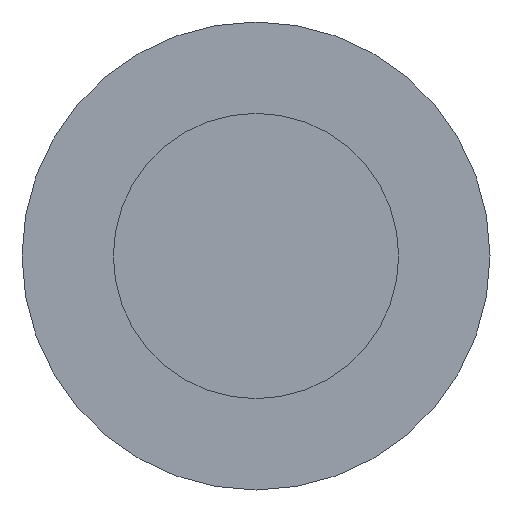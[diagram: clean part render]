
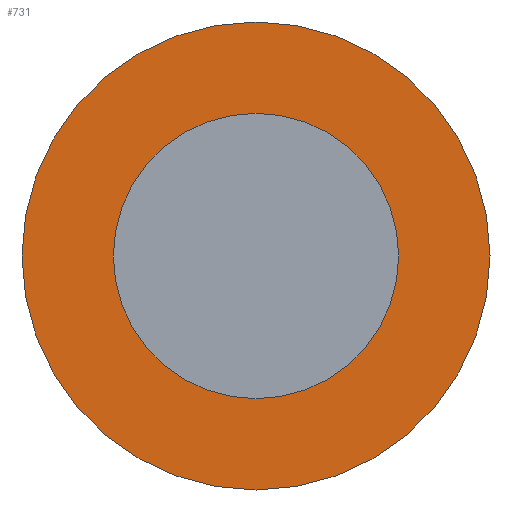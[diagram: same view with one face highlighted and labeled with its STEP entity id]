
A CAD part, front view. The second image highlights one B-rep face of the part: STEP entity #731.
In plain terms, the highlighted planar face has unit normal (0, -1, 0).
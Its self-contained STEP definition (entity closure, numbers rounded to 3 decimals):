
#88 = CARTESIAN_POINT ( 'NONE',  ( 0., 0., 0. ) ) ;
#94 = FACE_OUTER_BOUND ( 'NONE', #1358, .T. ) ;
#138 = AXIS2_PLACEMENT_3D ( 'NONE', #1010, #314, #1130 ) ;
#183 = CIRCLE ( 'NONE', #1334, 2.5 ) ;
#206 = DIRECTION ( 'NONE',  ( 0., 0., 1. ) ) ;
#266 = DIRECTION ( 'NONE',  ( 0., -1., 0. ) ) ;
#268 = AXIS2_PLACEMENT_3D ( 'NONE', #88, #891, #206 ) ;
#297 = VERTEX_POINT ( 'NONE', #1113 ) ;
#314 = DIRECTION ( 'NONE',  ( 0., 1., 0. ) ) ;
#375 = PLANE ( 'NONE',  #780 ) ;
#395 = ORIENTED_EDGE ( 'NONE', *, *, #876, .F. ) ;
#411 = EDGE_CURVE ( 'NONE', #1179, #1137, #758, .T. ) ;
#490 = DIRECTION ( 'NONE',  ( 0., -1., 0. ) ) ;
#540 = DIRECTION ( 'NONE',  ( 0., -1., 0. ) ) ;
#667 = ORIENTED_EDGE ( 'NONE', *, *, #1306, .F. ) ;
#672 = FACE_BOUND ( 'NONE', #945, .T. ) ;
#688 = CIRCLE ( 'NONE', #718, 2.5 ) ;
#718 = AXIS2_PLACEMENT_3D ( 'NONE', #957, #266, #1083 ) ;
#731 = ADVANCED_FACE ( 'NONE', ( #94, #672 ), #375, .T. ) ;
#758 = CIRCLE ( 'NONE', #268, 4.1 ) ;
#780 = AXIS2_PLACEMENT_3D ( 'NONE', #949, #490, #1309 ) ;
#876 = EDGE_CURVE ( 'NONE', #1412, #297, #183, .T. ) ;
#891 = DIRECTION ( 'NONE',  ( 0., 1., 0. ) ) ;
#904 = EDGE_CURVE ( 'NONE', #1137, #1179, #1115, .T. ) ;
#945 = EDGE_LOOP ( 'NONE', ( #667, #395 ) ) ;
#949 = CARTESIAN_POINT ( 'NONE',  ( 0., 0., 0. ) ) ;
#957 = CARTESIAN_POINT ( 'NONE',  ( 0., 0., 0. ) ) ;
#1010 = CARTESIAN_POINT ( 'NONE',  ( 0., 0., 0. ) ) ;
#1016 = ORIENTED_EDGE ( 'NONE', *, *, #411, .F. ) ;
#1083 = DIRECTION ( 'NONE',  ( 0., 0., -1. ) ) ;
#1099 = CARTESIAN_POINT ( 'NONE',  ( 0., 0., -2.5 ) ) ;
#1113 = CARTESIAN_POINT ( 'NONE',  ( 0., 0., 2.5 ) ) ;
#1115 = CIRCLE ( 'NONE', #138, 4.1 ) ;
#1130 = DIRECTION ( 'NONE',  ( 0., 0., 1. ) ) ;
#1137 = VERTEX_POINT ( 'NONE', #1401 ) ;
#1179 = VERTEX_POINT ( 'NONE', #1405 ) ;
#1243 = CARTESIAN_POINT ( 'NONE',  ( 0., 0., 0. ) ) ;
#1306 = EDGE_CURVE ( 'NONE', #297, #1412, #688, .T. ) ;
#1309 = DIRECTION ( 'NONE',  ( 0., 0., -1. ) ) ;
#1334 = AXIS2_PLACEMENT_3D ( 'NONE', #1243, #540, #1362 ) ;
#1358 = EDGE_LOOP ( 'NONE', ( #1016, #1395 ) ) ;
#1362 = DIRECTION ( 'NONE',  ( 0., 0., -1. ) ) ;
#1395 = ORIENTED_EDGE ( 'NONE', *, *, #904, .F. ) ;
#1401 = CARTESIAN_POINT ( 'NONE',  ( 0., 0., -4.1 ) ) ;
#1405 = CARTESIAN_POINT ( 'NONE',  ( 0., 0., 4.1 ) ) ;
#1412 = VERTEX_POINT ( 'NONE', #1099 ) ;
